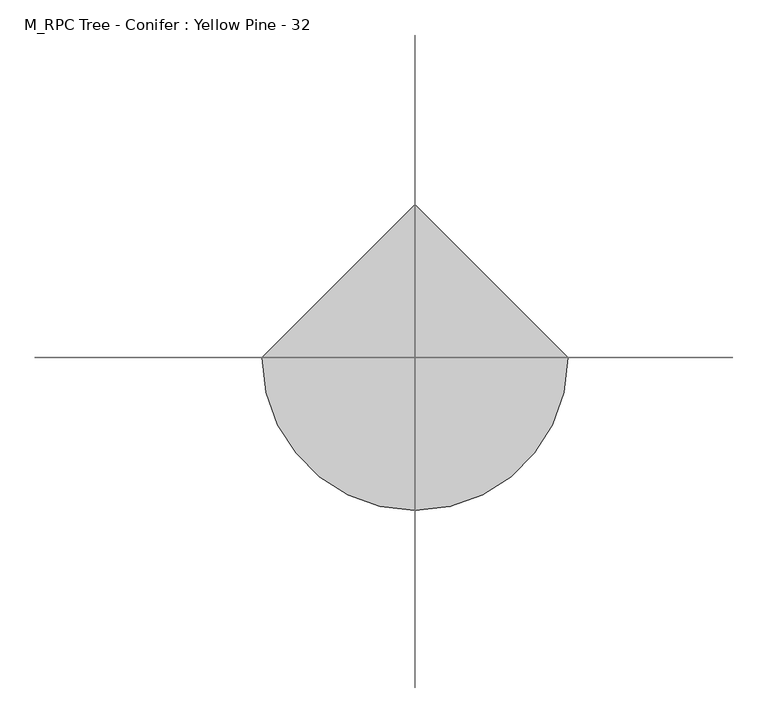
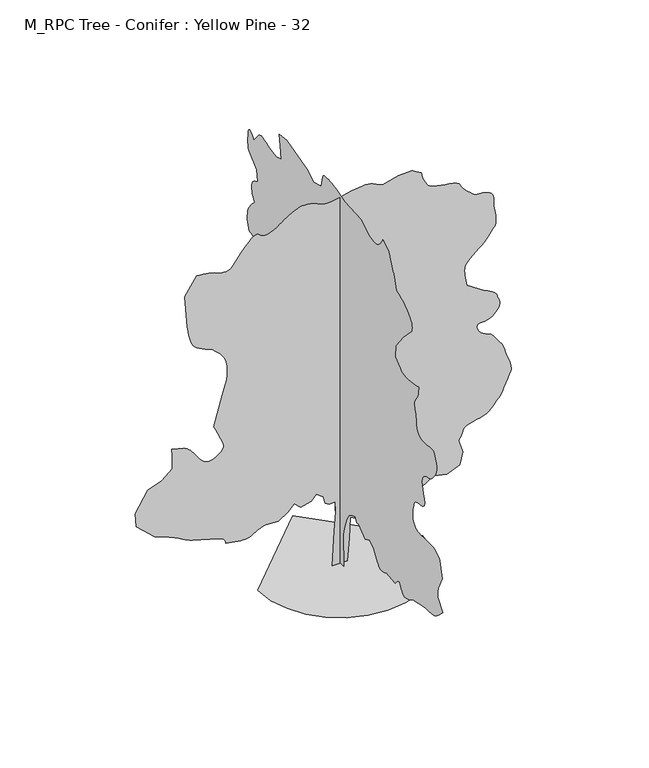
"""IFC4 building model written with IfcOpenShell, lengths in millimetres: geographic element geometry, M_RPC Tree - Conifer : Yellow Pine - 32."""

from ifc_helpers import new_model, si_unit, origin, place, context, project, spatial, triangles, source, transform, mapped, element, save


def m_rpc_tree_conifer_yellow_pine_32_9beb3d10(model_context):
    return source(origin(), model_context, "Body", "Tessellation", [
        triangles([(0.1907366, 576.1142532, 0.0301038), (0.1907366, -530.5701945, 0.0301038), (0.1907366, -434.3354436, 2742.6866592), (0.1907366, -626.8031651, 3560.6695793), (0.1907366, -915.502985, 4330.5368317), (0.1907366, -1252.3209435, 4859.8173157), (0.1907366, -1637.254715, 5100.4037933), (0.1907366, -2118.4195313, 5292.8664642), (0.1907366, -2310.8907772, 4859.8173157), (0.1907366, -2647.7087357, 4956.0486511), (0.1907366, -3032.6425072, 4571.1148796), (0.1907366, -3561.9229912, 4234.2967758), (0.1907366, -4187.4432404, 4522.9992119), (0.1907366, -4764.8393921, 4138.0654404), (0.1907366, -5149.7728729, 3464.4295235), (0.1907366, -5242.9195129, 3331.4425827), (0.1907366, -5338.1730011, 3204.7668846), (0.1907366, -5437.6308838, 3090.7223923), (0.1907366, -5543.4087296, 2995.6113373), (0.1907366, -5657.5953644, 2925.753392), (0.1907366, -5782.3069382, 2887.4510788), (0.1907366, -5919.640416, 2887.0333717), (0.1907366, -6051.3649338, 2910.4557793), (0.1907366, -6160.3693268, 2938.9357269), (0.1907366, -6250.422551, 2971.6200691), (0.1907366, -6325.338327, 3007.6733917), (0.1907366, -6388.8850296, 3046.2512695), (0.1907366, -6444.8583572, 3086.5179977), (0.1907366, -6497.0452881, 3127.6114197), (0.1907366, -7748.077066, 2983.2647072), (0.1907366, -7871.3840744, 3125.6557251), (0.1907366, -7992.1662369, 3256.2515327), (0.1907366, -8107.8998703, 3363.2915108), (0.1907366, -8216.0601288, 3434.9717285), (0.1907366, -8314.113446, 3459.5228462), (0.1907366, -8399.544278, 3425.158374), (0.1907366, -8469.8289413, 3320.0825203), (0.1907366, -8540.3891693, 3168.9981377), (0.1907366, -8627.7844162, 3012.8646446), (0.1907366, -8731.1717102, 2864.3045265), (0.1907366, -8849.7138931, 2735.9489891), (0.1907366, -8982.5848526, 2640.4199364), (0.1907366, -9128.8962708, 2590.3398537), (0.1907366, -9287.8295929, 2598.3309357), (0.1907366, -9447.2076553, 2645.1844711), (0.1907366, -9596.452034, 2702.1353554), (0.1907366, -9737.2521606, 2767.5133415), (0.1907366, -9871.3858337, 2839.6199867), (0.1907366, -10000.4523743, 2916.7757423), (0.1907366, -10126.141214, 2997.2911766), (0.1907366, -10250.1417847, 3079.495752), (0.1907366, -11982.3209381, 3416.3138557), (0.1907366, -12198.4100739, 3416.7405739), (0.1907366, -12411.4761383, 3419.6828362), (0.1907366, -12618.6762817, 3427.6826385), (0.1907366, -12816.9885956, 3443.2470955), (0.1907366, -13003.5655792, 3468.9272141), (0.1907366, -13175.477179, 3507.2205162), (0.1907366, -13329.6107941, 3560.6695793), (0.1907366, -13478.1435883, 3637.9584663), (0.1907366, -13634.3224274, 3743.0340294), (0.1907366, -13796.721817, 3871.2564354), (0.1907366, -13964.2778687, 4017.9855606), (0.1907366, -14135.5674133, 4178.6077332), (0.1907366, -14309.3451782, 4348.4924217), (0.1907366, -14484.4565826, 4522.9992119), (0.1907366, -13810.7663086, 5292.8664642), (0.1907366, -13790.7663666, 5437.0797546), (0.1907366, -13774.0557587, 5580.4489105), (0.1907366, -13764.0993896, 5722.129216), (0.1907366, -13764.1889191, 5861.293396), (0.1907366, -13777.7892517, 5997.0804565), (0.1907366, -13808.2780884, 6128.671843), (0.1907366, -13858.9447632, 6255.2048172), (0.1907366, -14388.1892029, 7361.8901733), (0.1907366, -14051.3888306, 8709.1538681), (0.1907366, -14024.9892792, 8746.3271805), (0.1907366, -13946.4115173, 8841.5806686), (0.1907366, -13816.5438629, 8970.4960556), (0.1907366, -13636.1002258, 9108.7184326), (0.1907366, -13406.0549652, 9231.7405746), (0.1907366, -13127.2103577, 9315.2075729), (0.1907366, -12800.3663544, 9334.674408), (0.1907366, -12436.1874207, 9319.563121), (0.1907366, -12061.0765961, 9313.6076706), (0.1907366, -11699.3870453, 9314.4965698), (0.1907366, -11375.6533173, 9319.563121), (0.1907366, -11114.1425354, 9326.2295746), (0.1907366, -10939.3869232, 9332.185025), (0.1907366, -10875.6536041, 9334.674408), (0.1907366, -10838.3198364, 9360.0961121), (0.1907366, -10742.1419861, 9431.7411575), (0.1907366, -10610.4976959, 9543.0297134), (0.1907366, -10467.1192383, 9687.0302261), (0.1907366, -10335.5633148, 9857.2518127), (0.1907366, -10239.3854645, 10046.763501), (0.1907366, -10202.0528595, 10248.8965118), (0.1907366, -10209.0745239, 10450.8527893), (0.1907366, -10228.7198364, 10645.3420807), (0.1907366, -10258.8528809, 10833.4306), (0.1907366, -10297.4307587, 11016.5426788), (0.1907366, -10342.3198792, 11195.8317352), (0.1907366, -10391.3866516, 11372.5418793), (0.1907366, -10442.5858521, 11548.0090759), (0.1907366, -10484.7193268, 11599.3873352), (0.1907366, -10531.8304047, 11649.431955), (0.1907366, -10589.074585, 11696.9871918), (0.1907366, -10661.4306335, 11740.8089355), (0.1907366, -10754.052887, 11779.4763428), (0.1907366, -10871.9201111, 11811.920874), (0.1907366, -11020.0087463, 11836.7205231), (0.1907366, -11199.1199066, 11851.9207581), (0.1907366, -11392.6313507, 11869.6092133), (0.1907366, -11579.2978638, 11909.9648895), (0.1907366, -11738.2311859, 11993.2539917), (0.1907366, -11848.3651611, 12139.7427246), (0.1907366, -11888.631308, 12369.5205597), (0.1907366, -11837.9646332, 12702.8548645), (0.1907366, -11734.3209595, 13079.6551208), (0.1907366, -11639.1209564, 13425.2549561), (0.1907366, -11566.5870117, 13738.1439972), (0.1907366, -11531.0310425, 14016.4560791), (0.1907366, -11546.9428619, 14258.588974), (0.1907366, -11628.4541656, 14462.8555756), (0.1907366, -11789.875708, 14627.4780853), (0.1907366, -11987.8322296, 14742.8559265), (0.1907366, -12171.4768341, 14813.5225433), (0.1907366, -12344.0988556, 14859.83367), (0.1907366, -12509.253891, 14901.8787781), (0.1907366, -12670.1429077, 14960.012439), (0.1907366, -12830.2319733, 15054.2345947), (0.1907366, -12992.8104218, 15204.9009796), (0.1907366, -13158.4991455, 15396.5450958), (0.1907366, -13316.5441498, 15600.8128601), (0.1907366, -13453.610202, 15818.5018982), (0.1907366, -13556.1888245, 16050.5016907), (0.1907366, -13610.7668884, 16297.7017181), (0.1907366, -13603.8335907, 16560.9019318), (0.1907366, -13522.0548615, 16840.9022827), (0.1907366, -13423.2992615, 17105.7023987), (0.1907366, -13356.5440338, 17321.7915344), (0.1907366, -13294.854776, 17487.3023621), (0.1907366, -13211.2110443, 17600.636142), (0.1907366, -13078.7656403, 17660.1034424), (0.1907366, -12870.5876495, 17664.0136688), (0.1907366, -12559.7438324, 17610.7692444), (0.1907366, -12190.9430878, 17551.836795), (0.1907366, -11836.4542603, 17540.0142609), (0.1907366, -11510.5869415, 17575.392334), (0.1907366, -11227.6530487, 17657.8803223), (0.1907366, -11001.8749695, 17787.4805511), (0.1907366, -10847.7425171, 17964.2813873), (0.1907366, -10779.3862244, 18188.103772), (0.1907366, -10756.0085815, 18427.2147583), (0.1907366, -10727.5638062, 18651.0371429), (0.1907366, -10694.8530121, 18862.3265717), (0.1907366, -10658.7645172, 19063.4817352), (0.1907366, -10620.1866394, 19257.081546), (0.1907366, -10579.9193298, 19445.615387), (0.1907366, -10538.8532318, 19631.659845), (0.1907366, -10498.8533478, 19765.7935181), (0.1907366, -10466.4971832, 19900.2829834), (0.1907366, -10449.1633575, 20035.6607666), (0.1907366, -10454.674649, 20172.2826599), (0.1907366, -10490.4085144, 20310.5951477), (0.1907366, -10564.0970398, 20451.037738), (0.1907366, -10683.208374, 20593.970874), (0.1907366, -10810.5866455, 20769.3508667), (0.1907366, -10906.7644958, 20989.2606995), (0.1907366, -10976.0974731, 21227.7507935), (0.1907366, -11022.6760254, 21458.6832092), (0.1907366, -11050.7638458, 21655.9293091), (0.1907366, -11064.4537079, 21793.3511536), (0.1907366, -11068.0976715, 21844.9945129), (0.1907366, -10997.1647919, 21829.1722229), (0.1907366, -10806.6752563, 21788.9072388), (0.1907366, -10530.3200317, 21735.2174927), (0.1907366, -10201.785434, 21678.9511597), (0.1907366, -9854.6740631, 21631.1284973), (0.1907366, -9522.7629272, 21602.5953552), (0.1907366, -9239.6517197, 21604.4626831), (0.1907366, -9000.6296814, 21646.0624695), (0.1907366, -8776.762532, 21725.6180786), (0.1907366, -8565.5004272, 21836.7275757), (0.1907366, -8364.3353806, 21973.0843689), (0.1907366, -8170.7442902, 22128.3725647), (0.1907366, -7982.2110306, 22296.2855713), (0.1907366, -7796.1927338, 22470.5074951), (0.1907366, -7844.3084015, 23480.9969788), (0.1907366, -8902.8513474, 24828.2868347), (0.1907366, -10105.7854797, 26079.3104736), (0.1907366, -10124.6308411, 26234.421936), (0.1907366, -10132.4524567, 26392.5541443), (0.1907366, -10118.4079651, 26556.5534363), (0.1907366, -10071.56315, 26729.3545166), (0.1907366, -9980.9861206, 26913.9781311), (0.1907366, -9835.6519684, 27113.2659668), (0.1907366, -9624.6299652, 27330.3341125), (0.1907366, -9377.1630936, 27538.9562622), (0.1907366, -9129.6962219, 27714.6897217), (0.1907366, -8882.2560928, 27863.1341492), (0.1907366, -8634.7979416, 27989.6217773), (0.1907366, -8387.3397903, 28099.7569153), (0.1907366, -8139.8822205, 28198.9555115), (0.1907366, -7892.4240692, 28292.6451416), (0.1907366, -7820.1842926, 28539.3998474), (0.1907366, -7747.5172165, 28781.978064), (0.1907366, -7674.0060059, 29016.1126099), (0.1907366, -7599.232663, 29237.622345), (0.1907366, -7522.7791901, 29442.2447388), (0.1907366, -7444.2281708, 29625.8893433), (0.1907366, -7363.1435852, 29784.2913025), (0.1907366, -7273.2234924, 29957.0016907), (0.1907366, -7174.0411743, 30170.0677551), (0.1907366, -7074.0234421, 30399.1351685), (0.1907366, -6981.5790848, 30619.7589111), (0.1907366, -6905.1256119, 30807.6683716), (0.1907366, -6853.0811142, 30938.2464478), (0.1907366, -6833.8543808, 30987.2248535), (0.1907366, -6015.8717514, 31468.3815308), (0.1907366, -5973.9336136, 31385.4470581), (0.1907366, -5927.7823608, 31300.0243652), (0.1907366, -5873.2048782, 31209.5368652), (0.1907366, -5806.0136307, 31111.491687), (0.1907366, -5721.9867828, 31003.3145691), (0.1907366, -5616.9112198, 30882.5126404), (0.1907366, -5486.5912674, 30746.6023315), (0.1907366, -5329.6130585, 30628.9141663), (0.1907366, -5149.9153061, 30559.2253967), (0.1907366, -4951.2751053, 30529.4458191), (0.1907366, -4737.4881546, 30531.6689392), (0.1907366, -4512.3324211, 30557.8905945), (0.1907366, -4279.6033127, 30600.1135986), (0.1907366, -4043.0878075, 30650.3361145), (0.1907366, -2984.5178284, 31372.1129883), (0.1907366, -674.9196321, 31516.4692932), (0.1907366, -376.5407518, 31598.5131226), (0.1907366, -81.9483319, 31678.0687317), (0.1907366, 205.0686057, 31752.5595337), (0.1907366, 480.7221471, 31819.4926575), (0.1907366, 741.2254686, 31876.2915161), (0.1907366, 982.791901, 31920.4702148), (0.1907366, 1201.6275988, 31949.5358826), (0.1907366, 1417.3877575, 31971.6694153), (0.1907366, 1643.236908, 31991.3147278), (0.1907366, 1865.7259438, 32000.025824), (0.1907366, 2071.3793793, 31989.3590332), (0.1907366, 2246.73074, 31950.9590515), (0.1907366, 2378.31297, 31876.2915161), (0.1907366, 2452.6686058, 31757.0918152), (0.1907366, 2693.2466537, 30794.6924194), (0.1907366, 3751.8163422, 30506.0681763), (0.1907366, 4714.1549858, 31083.4027039), (0.1907366, 5917.0713867, 31372.1129883), (0.1907366, 7504.9215591, 31853.2696655), (0.1907366, 8563.4912476, 31708.9133606), (0.1907366, 8467.2511917, 30794.6924194), (0.1907366, 8274.7891022, 29736.2012146), (0.1907366, 9044.6293213, 29495.5786926), (0.1907366, 9814.496283, 29639.9349976), (0.1907366, 10112.1862518, 29751.7560791), (0.1907366, 10401.8755463, 29853.8917053), (0.1907366, 10675.5646545, 29936.6471191), (0.1907366, 10925.2529022, 29990.3345398), (0.1907366, 11143.0314697, 30005.3568787), (0.1907366, 11320.7206238, 29971.9356628), (0.1907366, 11450.4975861, 29880.4691528), (0.1907366, 12172.2767853, 29014.4243408), (0.1907366, 12336.2760773, 29206.1568237), (0.1907366, 12494.3210815, 29373.0908203), (0.1907366, 12640.6319183, 29490.4231934), (0.1907366, 12769.2542999, 29533.1787231), (0.1907366, 12874.3211426, 29476.6449646), (0.1907366, 12949.9653625, 29295.9350647), (0.1907366, 12990.2326721, 28966.2458862), (0.1907366, 13002.4098358, 28600.1124207), (0.1907366, 12999.4774567, 28317.3552612), (0.1907366, 12983.9214294, 28103.9334045), (0.1907366, 12958.2322998, 27946.1546631), (0.1907366, 12924.9878174, 27829.9780334), (0.1907366, 12886.6773651, 27741.6229614), (0.1907366, 12845.8763672, 27667.1321594), (0.1907366, 11739.2090332, 26752.9112183), (0.1907366, 11642.9428162, 25742.5101013), (0.1907366, 11796.8090057, 25679.7534668), (0.1907366, 11946.1429138, 25612.0203918), (0.1907366, 12086.1425079, 25534.1530518), (0.1907366, 12212.1871399, 25441.1750061), (0.1907366, 12319.8317322, 25327.9307556), (0.1907366, 12404.2765778, 25189.4415344), (0.1907366, 12460.898703, 25020.7309021), (0.1907366, 12482.5880768, 24835.130603), (0.1907366, 12468.809848, 24649.530304), (0.1907366, 12425.6101593, 24463.9300049), (0.1907366, 12358.8537689, 24278.3297058), (0.1907366, 12274.4100861, 24092.7294067), (0.1907366, 12178.1427063, 23907.1291077), (0.1907366, 12076.0094055, 23721.531134), (0.1907366, 12230.0546539, 23566.8638306), (0.1907366, 12380.2768799, 23411.6640015), (0.1907366, 12522.9437531, 23255.6618958), (0.1907366, 12654.232251, 23098.4180054), (0.1907366, 12770.4100433, 22939.4858459), (0.1907366, 12867.6552704, 22778.4189331), (0.1907366, 12942.1437469, 22614.8614746), (0.1907366, 12995.5660675, 22455.4851563), (0.1907366, 13033.8765198, 22306.2407776), (0.1907366, 13059.5656494, 22165.4400696), (0.1907366, 13075.1216766, 22031.3063965), (0.1907366, 13083.1211884, 21902.239856), (0.1907366, 13086.0547302, 21776.5498535), (0.1907366, 13086.4988892, 21652.5504456), (0.1907366, 12797.787442, 20834.593396), (0.1907366, 12663.8328278, 20813.0830811), (0.1907366, 12530.2316803, 20786.5940002), (0.1907366, 12397.5211761, 20749.9729797), (0.1907366, 12266.0547821, 20698.2389282), (0.1907366, 12136.3650238, 20626.2386719), (0.1907366, 12008.6321228, 20528.9934448), (0.1907366, 11883.5653381, 20401.5268066), (0.1907366, 11769.6095032, 20250.15), (0.1907366, 11673.4316528, 20086.1483826), (0.1907366, 11591.9203491, 19911.6613586), (0.1907366, 11522.1420502, 19728.7260132), (0.1907366, 11461.2539062, 19539.4817505), (0.1907366, 11406.32005, 19346.0598358), (0.1907366, 11354.231369, 19150.5043304), (0.1907366, 11241.6091736, 18995.7486603), (0.1907366, 11133.6087891, 18840.6371979), (0.1907366, 11034.8531891, 18684.6374176), (0.1907366, 10949.9641846, 18527.3039978), (0.1907366, 10883.6531158, 18368.3706757), (0.1907366, 10840.3638977, 18207.3921295), (0.1907366, 10824.9869293, 18043.8369965), (0.1907366, 10873.0758545, 16744.6360657), (0.1907366, 10985.6980499, 16733.2576904), (0.1907366, 11093.7868011, 16715.5692352), (0.1907366, 11192.5424011, 16685.3466614), (0.1907366, 11277.3418762, 16636.1019928), (0.1907366, 11343.7424744, 16561.6135162), (0.1907366, 11386.9421631, 16455.4792969), (0.1907366, 11402.4086609, 16311.5683136), (0.1907366, 11398.1426422, 16145.2575348), (0.1907366, 11386.4096375, 15976.2794769), (0.1907366, 11368.2758606, 15805.3457245), (0.1907366, 11345.1644806, 15632.6341736), (0.1907366, 11318.2312408, 15458.6785126), (0.1907366, 11288.7202515, 15283.9229004), (0.1907366, 11258.0535187, 15108.6347626), (0.1907366, 11209.8750641, 14146.3225708), (0.1907366, 12124.0983307, 14194.4998627), (0.1907366, 13134.5878143, 14386.9450928), (0.1907366, 13349.6107361, 14314.1448853), (0.1907366, 13555.8330322, 14237.522818), (0.1907366, 13744.3668732, 14153.3442352), (0.1907366, 13906.4116333, 14057.7896027), (0.1907366, 14033.0783203, 13947.1219391), (0.1907366, 14115.5663086, 13817.5217102), (0.1907366, 14144.9889313, 13665.1670563), (0.1907366, 14136.6336273, 13472.1881378), (0.1907366, 14113.0780884, 13228.6332367), (0.1907366, 14076.8116974, 12943.0320648), (0.1907366, 14030.5889374, 12623.7434143), (0.1907366, 13976.7224579, 12279.2097931), (0.1907366, 13917.7888458, 11917.7876678), (0.1907366, 13856.3670135, 11548.0090759), (0.1907366, 13423.2992615, 10393.2528168), (0.1907366, 13186.7660248, 10260.5411499), (0.1907366, 12954.0546478, 10135.8301575), (0.1907366, 12728.8986237, 10027.1193512), (0.1907366, 12515.1209747, 9942.4082428), (0.1907366, 12316.4540314, 9889.6079773), (0.1907366, 12136.720816, 9876.8971252), (0.1907366, 11979.7431885, 9912.0973022), (0.1907366, 10632.5416992, 10489.4306671), (0.1907366, 9285.2518433, 10056.4524445), (0.1907366, 8322.9041885, 9382.7633331), (0.1907366, 7360.574556, 7939.2863251), (0.1907366, 7267.427916, 7795.7753174), (0.1907366, 7172.1744278, 7657.3215591), (0.1907366, 7072.7078247, 7528.9660217), (0.1907366, 6966.9386993, 7415.7572342), (0.1907366, 6852.7520645, 7322.752446), (0.1907366, 6728.0410721, 7254.9926285), (0.1907366, 6590.7075943, 7217.5344498), (0.1907366, 6453.6496811, 7205.0543976), (0.1907366, 6325.0092773, 7206.0322449), (0.1907366, 6195.5247391, 7216.2723175), (0.1907366, 6055.9512817, 7231.5615005), (0.1907366, 5897.0092392, 7247.6948181), (0.1907366, 5709.4532455, 7260.4591553), (0.1907366, 5484.0222382, 7265.6501175), (0.1907366, 5242.1730469, 7247.4192535), (0.1907366, 5010.4307968, 7196.3526031), (0.1907366, 4787.0970451, 7117.9347153), (0.1907366, 4570.501545, 7017.6321167), (0.1907366, 4358.9545738, 6900.9212173), (0.1907366, 4150.7765831, 6773.2673813), (0.1907366, 3944.2877335, 6640.1388794), (0.1907366, 3655.5850067, 5822.1556686), (0.1907366, 2837.6023773, 4907.9329834), (0.1907366, 2724.6688637, 4785.6038223), (0.1907366, 2594.073056, 4665.8082275), (0.1907366, 2448.7397758, 4548.1101791), (0.1907366, 2291.6195698, 4432.1012718), (0.1907366, 2125.6638565, 4317.3457764), (0.1907366, 1953.823764, 4203.4434265), (0.1907366, 1779.0325436, 4089.9500633), (0.1907366, 1490.3301075, 5100.4037933), (0.1907366, 1009.1652185, 5774.0312805), (0.1907366, 816.6984055, 5340.982132), (0.1907366, 672.3471874, 4667.3549355), (0.1907366, 624.2315924, 3464.4295235), (0.1907366, 527.9977498, 1780.3481609), (596.3909225, 0.001526, 0.0762003), (-654.6412188, 0.001526, 0.0762003), (-462.1761497, 0.0013542, 2887.0778458), (-365.9422709, 0.0012531, 4571.1593536), (-414.0587743, 0.0012017, 5437.2663712), (-895.2263157, 0.0012044, 5389.1507034), (-1232.0442741, 0.0011934, 5581.6133743), (-1376.391132, 0.0011557, 6207.1339142), (-1953.7960041, 0.0011328, 6592.067395), (-2338.7296303, 0.0011585, 6159.0182465), (-3204.8279274, 0.0011732, 5918.4311874), (-3734.1174225, 0.0011447, 6399.5960037), (-4263.3976158, 0.0011759, 5870.3155197), (-5033.2654495, 0.0012044, 5389.1507034), (-6188.0664734, 0.0012017, 5437.2663712), (-6765.4620438, 0.0012164, 5196.6798935), (-6889.4800552, 0.0012219, 5104.5105194), (-7015.168895, 0.0012274, 5016.1374252), (-7144.2267151, 0.001232, 4935.3371246), (-7278.342366, 0.0012356, 4865.8971771), (-7419.1872574, 0.0012393, 4811.6039795), (-7568.4409378, 0.0012412, 4776.2526489), (-7727.8009781, 0.0012421, 4763.6304543), (-7905.4011841, 0.0012421, 4769.2394142), (-8105.7209335, 0.0012412, 4784.9550247), (-8324.974411, 0.0012393, 4809.0794243), (-8559.3926605, 0.0012375, 4839.9417847), (-8805.16138, 0.0012356, 4875.8526741), (-9058.4773132, 0.0012329, 4915.1325439), (-9315.6331284, 0.001231, 4956.1015549), (-9327.5440292, 0.0012246, 5058.928418), (-9349.144455, 0.0012182, 5160.0664307), (-9390.1221863, 0.0012127, 5257.8441833), (-9460.166748, 0.0012072, 5350.573407), (-9568.8775543, 0.0012017, 5436.5640884), (-9725.9447113, 0.0011971, 5514.1378418), (-9941.1443665, 0.0011934, 5581.6133743), (-12058.3023468, 0.0011557, 6207.1339142), (-12231.1022644, 0.001153, 6261.978241), (-12415.7247162, 0.0011484, 6339.5607147), (-12606.213089, 0.0011429, 6433.1253525), (-12796.7026245, 0.0011364, 6535.9516342), (-12981.3250763, 0.00113, 6641.3033432), (-13154.2145233, 0.0011245, 6742.4500763), (-13309.324823, 0.001119, 6832.6457336), (-13476.1692902, 0.0011135, 6919.3386978), (-13683.3694336, 0.0011079, 7013.6143387), (-13924.1698517, 0.0011015, 7114.1925018), (-14191.9930389, 0.001096, 7219.8279144), (-14479.9929016, 0.0010896, 7329.2503052), (-14781.4152008, 0.0010822, 7441.1882401), (-15089.682431, 0.0010758, 7554.3970276), (-16581.2390625, 0.0009922, 8949.7851105), (-16677.5052795, 0.0009233, 10104.5413696), (-15667.0157959, 0.0008259, 11740.5426727), (-14512.2595367, 0.0008002, 12173.6092621), (-13646.1251953, 0.000757, 12895.3884613), (-13646.1251953, 0.0006918, 14002.0557953), (-13694.3036499, 0.0006569, 14579.4786896), (-12683.8141663, 0.0006716, 14338.8561676), (-12570.0362274, 0.0006762, 14265.5222717), (-12454.2130646, 0.0006808, 14184.9888153), (-12334.1250458, 0.0006863, 14090.1446045), (-12207.7246216, 0.0006927, 13973.8772827), (-12072.879364, 0.0007019, 13828.9000854), (-11927.5463745, 0.0007129, 13648.2773895), (-11769.5908997, 0.0007258, 13424.632901), (-11609.5018341, 0.0007396, 13189.6995667), (-11455.368219, 0.0007524, 12982.4994232), (-11301.2346039, 0.0007625, 12807.2996521), (-11141.1455383, 0.0007708, 12668.2767426), (-10969.323468, 0.0007772, 12569.6095093), (-10779.8117798, 0.00078, 12515.6546631), (-10566.6561859, 0.00078, 12510.4096344), (-10333.6785461, 0.0007772, 12563.7435883), (-10099.0114746, 0.0007708, 12671.7439728), (-9878.5667908, 0.0007616, 12818.4989685), (-9688.5225769, 0.0007515, 12987.9211853), (-9544.6999603, 0.0007414, 13164.0999664), (-9463.1886566, 0.0007313, 13331.0328003), (-9459.9888519, 0.000723, 13472.7218262), (-9516.6999252, 0.0007138, 13625.9659607), (-9601.1447708, 0.0007019, 13832.1894196), (-9708.700415, 0.0006863, 14082.5892517), (-9834.8334137, 0.0006697, 14368.2776276), (-9974.8341705, 0.0006514, 14680.5446136), (-10124.0785492, 0.0006311, 15010.5012177), (-10277.9447388, 0.0006109, 15349.3456512), (-9604.3445755, 0.0004649, 17803.2144745), (-9512.166481, 0.0004483, 18080.9917053), (-9423.8108276, 0.0004318, 18354.9482391), (-9343.0111084, 0.0004162, 18621.3482574), (-9273.5886017, 0.0004006, 18876.4594299), (-9219.2773819, 0.0003868, 19116.2820007), (-9183.8998901, 0.000373, 19337.2603729), (-9171.2774048, 0.000362, 19535.4819946), (-9174.5661575, 0.00035, 19728.905072), (-9185.3218964, 0.0003381, 19934.1483582), (-9205.4107864, 0.0003252, 20145.2610535), (-9236.4333115, 0.0003124, 20356.3714233), (-9279.9887924, 0.0003004, 20561.6170349), (-9337.9445572, 0.0002885, 20755.0377869), (-9411.8999268, 0.0002784, 20930.8619385), (-9507.0109818, 0.0002683, 21094.4170715), (-9624.8776245, 0.0002591, 21255.4839844), (-9761.5890472, 0.0002499, 21414.4161438), (-9913.500705, 0.0002398, 21571.6623596), (-10076.7895752, 0.0002306, 21727.6621399), (-10247.7233276, 0.0002214, 21882.7736023), (-10422.3010437, 0.0002122, 22037.5292725), (-10699.5457489, 0.0002058, 22151.1293152), (-10969.5897308, 0.0001984, 22266.0618347), (-11225.3241211, 0.000192, 22383.4848999), (-11459.545871, 0.0001847, 22504.6402954), (-11665.2344788, 0.0001773, 22630.9511902), (-11835.1020172, 0.000169, 22763.4849609), (-11962.034967, 0.0001608, 22903.6624512), (-12061.9463104, 0.0001497, 23090.5068604), (-12154.302301, 0.000135, 23343.8402344), (-12237.3239777, 0.0001176, 23635.9293823), (-12309.4137634, 9.92e-05, 23938.9527466), (-12368.8799011, 8.18e-05, 24225.0864441), (-12414.0352844, 6.8e-05, 24466.6856506), (-12443.280011, 5.79e-05, 24635.8427673), (-12635.7252411, -0.0001029, 27330.3341125), (-11673.3235199, -0.000192, 28821.977948), (-11416.2566528, -0.0001902, 28790.6891602), (-11162.9232788, -0.0001883, 28757.356311), (-10917.1452576, -0.0001856, 28719.7562805), (-10682.6560822, -0.0001828, 28675.8450073), (-10463.4566711, -0.0001801, 28623.4900635), (-10263.100296, -0.0001764, 28560.6450623), (-10085.5006714, -0.0001718, 28485.1775757), (-9904.9675049, -0.0001672, 28412.2006348), (-9701.6781693, -0.0001644, 28361.1781677), (-9488.3446793, -0.0001626, 28336.2006226), (-9277.4999908, -0.0001635, 28341.5328552), (-9081.7665894, -0.0001654, 28381.3560059), (-8913.8553268, -0.00017, 28459.9349304), (-8786.3613647, -0.0001773, 28581.355426), (-8016.4944031, -0.0002379, 29591.8449097), (-7810.8406769, -0.0002517, 29827.2235657), (-7608.5565125, -0.0002655, 30052.1121643), (-7413.0091461, -0.0002774, 30255.9346069), (-7227.5512802, -0.0002876, 30428.2031616), (-7055.5693359, -0.0002958, 30558.4254456), (-6900.4136902, -0.0003004, 30635.934668), (-6765.4620438, -0.0003013, 30650.4244812), (-6656.8843689, -0.0002986, 30614.2476196), (-6568.5106934, -0.0002949, 30555.3140076), (-6485.1867096, -0.0002912, 30486.2461304), (-6391.7552032, -0.0002876, 30419.7571655), (-6273.0798889, -0.0002839, 30368.4695984), (-6113.9948318, -0.000283, 30344.9128967), (-5899.3637466, -0.0002839, 30361.7141968), (-5642.9282364, -0.0002885, 30434.6911377), (-5379.7634857, -0.0002949, 30556.469751), (-5126.6876541, -0.0003041, 30705.0909119), (-4900.554364, -0.0003133, 30858.8698975), (-4718.1893326, -0.0003215, 30995.7592163), (-4596.4203117, -0.0003271, 31093.9811279), (-4552.0913315, -0.0003298, 31131.5811584), (-4497.8068542, -0.0003316, 31166.3371765), (-4353.4601418, -0.0003372, 31256.7363098), (-4146.8198479, -0.0003445, 31381.5356689), (-3905.6729393, -0.0003528, 31519.8481567), (-3657.7973717, -0.0003601, 31650.6029663), (-3430.9615082, -0.0003666, 31752.7362671), (-3252.9435951, -0.0003693, 31805.1819031), (-3084.0457649, -0.0003702, 31816.8253784), (-2873.9033592, -0.0003702, 31809.9816101), (-2634.3031586, -0.0003684, 31783.7576294), (-2377.0230778, -0.0003656, 31737.358136), (-2113.8583271, -0.000362, 31669.8924866), (-1856.5782463, -0.0003565, 31580.4700378), (-1616.9780457, -0.00035, 31468.3815308), (-1362.0889526, -0.0003445, 31376.9150208), (-1056.6930588, -0.0003427, 31343.5798462), (-709.2128151, -0.0003427, 31358.6021851), (-328.0666758, -0.0003463, 31412.2919312), (78.330157, -0.0003509, 31495.047345), (501.560628, -0.0003574, 31597.1806458), (933.2106977, -0.0003638, 31709.0040527), (1231.1665661, -0.0003666, 31749.359729), (1522.8112644, -0.0003684, 31784.7366394), (1801.8336227, -0.0003702, 31809.9816101), (2061.9138233, -0.0003702, 31820.1135498), (2296.7496346, -0.0003702, 31809.9816101), (2500.020948, -0.0003675, 31774.6023743), (2665.407946, -0.0003638, 31709.0040527), (2804.1456985, -0.0003592, 31632.1133972), (2932.7858116, -0.0003555, 31565.3593323), (3053.0081245, -0.0003519, 31506.9582458), (3166.4927673, -0.0003491, 31455.3148865), (3274.9373108, -0.0003463, 31408.8247009), (3380.0038628, -0.0003436, 31365.5366455), (3483.3905754, -0.0003408, 31324.0252258), (4734.4229347, -0.000361, 31660.8255981), (5841.1080002, -0.0003638, 31709.0040527), (6610.9842636, -0.0003381, 31275.9351379), (6622.0597504, -0.0003316, 31162.0699951), (6637.7750702, -0.0003243, 31045.1794556), (6662.743895, -0.000317, 30922.4241577), (6701.6060577, -0.0003096, 30790.869397), (6758.9752304, -0.0003004, 30647.4921021), (6839.4999664, -0.0002912, 30489.3575684), (6947.7933563, -0.0002811, 30313.6241089), (7056.6553162, -0.000271, 30152.7362549), (7146.9934067, -0.0002646, 30033.8900208), (7235.6513672, -0.0002591, 29946.2465332), (7339.464798, -0.0002545, 29878.6901917), (7475.2512772, -0.0002517, 29820.4681641), (7659.8650085, -0.000248, 29760.6462341), (7910.1317093, -0.0002435, 29688.1134521), (8218.6117172, -0.0002398, 29618.2456238), (8551.5012817, -0.0002361, 29565.1790955), (8886.0703949, -0.0002333, 29516.3797485), (9199.5814911, -0.0002297, 29459.1344055), (9469.3597916, -0.0002251, 29380.8229065), (9672.6485458, -0.0002186, 29268.9134583), (9786.6933289, -0.0002095, 29110.6905579), (9870.9602783, -0.0001984, 28926.5111023), (9995.6712708, -0.0001874, 28744.8221924), (10154.0709045, -0.0001764, 28565.2680359), (10339.4049408, -0.0001663, 28387.399823), (10544.9156525, -0.0001553, 28210.7780457), (10763.8499634, -0.0001452, 28035.0445862), (10989.6280426, -0.0001341, 27859.6669189), (11307.050528, -0.0001323, 27827.134021), (11611.4947357, -0.0001305, 27784.9110168), (11889.8056549, -0.0001268, 27723.3101257), (12129.0061707, -0.0001213, 27632.6435669), (12315.9401093, -0.000113, 27503.3119263), (12437.7175598, -0.0001029, 27325.6227722), (12481.1846741, -8.91e-05, 27089.7999573), (12484.0286865, -7.44e-05, 26844.1103027), (12491.8514648, -6.16e-05, 26638.9553833), (12503.9402618, -5.14e-05, 26467.3100464), (12519.4067596, -4.32e-05, 26322.6886414), (12537.3626404, -3.58e-05, 26198.3311157), (12557.0067902, -2.85e-05, 26087.3099854), (12577.4508911, -2.3e-05, 25983.1326233), (12617.7182007, -8.3e-06, 25736.4639587), (12652.1172638, 6.4e-06, 25494.9531189), (12674.6949554, 2.02e-05, 25263.4858521), (12679.5841919, 3.31e-05, 25047.1316162), (12660.9178894, 4.5e-05, 24851.0412598), (12612.8289642, 5.51e-05, 24680.1981995), (12529.3619659, 6.34e-05, 24539.5742249), (12422.8731171, 7.17e-05, 24404.8196594), (12307.9394348, 8.08e-05, 24250.5965149), (12182.1622284, 9.1e-05, 24081.2626648), (12042.873056, 0.0001011, 23900.9969238), (11887.5836975, 0.0001121, 23714.0641479), (11713.7164032, 0.000124, 23524.5524597), (11518.8724823, 0.000135, 23336.6406738), (11292.6502441, 0.000147, 23142.9524963), (11040.205188, 0.0001589, 22935.7511902), (10782.7825287, 0.0001718, 22719.3062622), (10541.3600555, 0.0001847, 22497.7965271), (10337.0050873, 0.0001984, 22275.4845154), (10190.6930878, 0.0002113, 22056.4630005), (10123.4937012, 0.0002242, 21845.0852051), (10112.737381, 0.0002361, 21636.016571), (10119.582312, 0.000249, 21421.973822), (10141.1821564, 0.0002618, 21203.6615662), (10174.6045349, 0.0002756, 20982.0611389), (10216.8263763, 0.0002885, 20757.8841248), (10264.9153015, 0.0003023, 20532.0165161), (10315.9377686, 0.000316, 20305.3489563), (11759.4950043, 0.000373, 19342.9483978), (11815.405545, 0.0003748, 19318.0603821), (11959.76185, 0.0003785, 19249.2599304), (12157.1835205, 0.0003849, 19146.0592529), (12372.2064423, 0.0003923, 19017.5264008), (12569.6292755, 0.0004015, 18873.0817291), (12713.9844177, 0.0004097, 18721.7932892), (12769.8961212, 0.0004189, 18573.0814362), (12799.9396362, 0.0004272, 18432.7260498), (12868.6517212, 0.0004355, 18292.281134), (12944.118045, 0.0004446, 18140.1032135), (12994.3405609, 0.0004557, 17964.2813873), (12987.3177338, 0.0004676, 17753.1698547), (12891.1398834, 0.0004832, 17494.9472443), (12673.7182709, 0.0005025, 17177.702655), (12373.8063446, 0.0005181, 16907.8354065), (12065.4507477, 0.0005264, 16768.3695007), (11769.7164734, 0.0005301, 16713.1693817), (11507.6720032, 0.000531, 16695.7471893), (11300.2939636, 0.0005328, 16669.8801636), (11168.7392029, 0.0005374, 16589.4350739), (11133.9831848, 0.0005485, 16407.8356934), (11184.0278046, 0.0005613, 16181.4355591), (11287.1389526, 0.0005723, 15992.9017181), (11434.4276367, 0.0005825, 15835.9240906), (11617.0943939, 0.0005898, 15704.190271), (11826.2502319, 0.0005962, 15591.3901794), (12053.0945251, 0.0006027, 15491.3009399), (12288.739444, 0.0006082, 15397.4345764), (12524.2948334, 0.0006256, 15099.4783447), (12750.162442, 0.0006431, 14807.8345184), (12956.651001, 0.0006596, 14528.8120148), (13134.0738922, 0.0006752, 14268.7220764), (13272.8293762, 0.0006899, 14033.8782715), (13363.1401428, 0.0007019, 13830.5883545), (13395.406778, 0.0007111, 13665.255423), (13434.6962402, 0.000723, 13467.3884308), (13532.9181519, 0.0007405, 13184.6324341), (13660.5626862, 0.0007598, 12849.6098602), (13788.2072205, 0.0007809, 12495.2989288), (13886.4302948, 0.0008011, 12154.4092712), (13925.7185944, 0.0008195, 11859.8319031), (13876.5634552, 0.0008323, 11644.2764557), (13762.5180908, 0.0008443, 11431.4754913), (13629.9854828, 0.0008617, 11143.8314209), (13483.9409088, 0.0008819, 10812.2749146), (13329.5410309, 0.0009022, 10468.186615), (13171.6739227, 0.0009214, 10142.5855591), (13015.584613, 0.000938, 9866.6744934), (12866.1623383, 0.0009499, 9671.563147), (12721.2735077, 0.0009591, 9516.9853729), (12573.0069763, 0.0009692, 9348.0073151), (12417.9838806, 0.0009793, 9174.0516541), (12252.8288452, 0.0009894, 9004.3625931), (12074.2502106, 0.0009986, 8848.0779465), (11878.8726013, 0.0010069, 8714.5314468), (11663.2276245, 0.0010124, 8612.966716), (11408.3838776, 0.001017, 8537.6335236), (11114.6948273, 0.0010216, 8469.8824265), (10808.4716583, 0.0010253, 8399.5977631), (10515.7604553, 0.0010299, 8316.6911957), (10262.515448, 0.0010363, 8211.0645035), (10074.9606171, 0.0010446, 8072.6020248), (9979.1373962, 0.0010556, 7891.2154221), (9927.8486664, 0.0010666, 7709.4108215), (9862.9596039, 0.0010749, 7568.0060806), (9794.78237, 0.0010813, 7454.3792953), (9733.3599564, 0.0010877, 7355.8992599), (9688.7376801, 0.0010932, 7259.9434891), (9671.0486435, 0.0010997, 7153.8900787), (9690.4265305, 0.001107, 7025.1165436), (9979.1373962, 0.0011622, 6110.9025787), (9738.6044037, 0.0012246, 5052.3328903), (8679.9992523, 0.0012503, 4619.2837418), (7621.4289825, 0.0012366, 4859.8617897), (6562.8592941, 0.0012761, 4186.2345932), (5792.9923325, 0.0012503, 4619.2837418), (4686.307267, 0.0012219, 5100.448558), (4613.7826241, 0.0012246, 5058.2174149), (4539.1514236, 0.0012274, 5010.1017471), (4460.3158287, 0.001231, 4950.2083099), (4375.1602707, 0.0012356, 4872.6261269), (4281.5956329, 0.0012412, 4771.4884048), (4177.5069283, 0.0012494, 4640.8835861), (4060.7957382, 0.0012595, 4474.9280182), (3938.4665771, 0.0012696, 4300.5546501), (3818.6709824, 0.0012788, 4146.3855721), (3700.9732246, 0.0012871, 4009.0520943), (3584.9553062, 0.0012944, 3885.1852364), (3470.2085312, 0.0013009, 3771.4163086), (3356.2971703, 0.0013073, 3664.385051), (3242.8128181, 0.0013137, 3560.7140533), (3387.1595306, 0.0013744, 2550.259742), (3304.2526726, 0.0013762, 2519.8153793), (3218.82155, 0.0013771, 2492.3219994), (3128.3416077, 0.001379, 2470.7218643), (3030.2792793, 0.0013799, 2457.9575272), (2922.1280319, 0.0013799, 2456.9796799), (2801.3455788, 0.001379, 2470.7218643), (2665.407946, 0.0013771, 2502.1443649), (2523.8610626, 0.0013735, 2554.6065697), (2387.3718647, 0.0013698, 2627.2733551), (2255.087352, 0.0013643, 2716.7754501), (2126.1628086, 0.0013578, 2819.7444557), (1999.7715408, 0.0013514, 2932.8111008), (1875.0604031, 0.0013441, 3052.6069862), (1751.1935452, 0.0013367, 3175.7802818), (836.9733307, 0.0013082, 3656.9450981), (740.7430126, 0.0014139, 1876.6236797), (-6707.6132492, 0.0, 0.0), (-6530.2798874, -1536.98787, 0.0), (-6025.2392029, -2948.4645058, 0.0), (-5232.927681, -4193.9855736, 0.0), (-4193.7887833, -5233.1241806, 0.0), (-2948.2677155, -6025.4357025, 0.0), (-1536.7912251, -6530.476387, 0.0), (0.1969643, -6707.8097488, 0.0), (1537.184515, -6530.476387, 0.0), (2948.6612961, -6025.4357025, 0.0), (4194.1823639, -5233.1241806, 0.0), (5233.3206802, -4193.9855736, 0.0), (6025.6322021, -2948.4645058, 0.0), (6530.6728867, -1536.98787, 0.0), (6708.0062485, 0.0005861, 0.0), (0.1957915, 6707.8097488, 0.0)], [[407, 408, 409], [173, 174, 175], [406, 407, 409], [219, 220, 221], [1, 2, 3], [414, 1, 3], [413, 414, 3], [413, 3, 4], [412, 413, 4], [412, 4, 5], [255, 256, 257], [219, 221, 222], [65, 66, 67], [405, 406, 409], [8, 9, 10], [219, 222, 223], [404, 405, 409], [64, 65, 67], [412, 5, 6], [411, 412, 6], [403, 404, 409], [219, 223, 224], [172, 173, 175], [172, 175, 176], [171, 172, 176], [171, 176, 177], [170, 171, 177], [254, 255, 257], [254, 257, 258], [402, 403, 409], [63, 64, 67], [218, 219, 224], [401, 402, 409], [218, 224, 225], [217, 218, 225], [312, 313, 314], [216, 217, 225], [216, 225, 226], [170, 177, 178], [169, 170, 178], [168, 169, 178], [167, 168, 178], [167, 178, 179], [166, 167, 179], [166, 179, 180], [165, 166, 180], [11, 12, 13], [216, 226, 227], [215, 216, 227], [400, 401, 409], [400, 409, 410], [399, 400, 410], [29, 30, 31], [62, 63, 67], [214, 215, 227], [214, 227, 228], [410, 411, 6], [410, 6, 7], [165, 180, 181], [164, 165, 181], [312, 314, 315], [61, 62, 67], [213, 214, 228], [60, 61, 67], [59, 60, 67], [58, 59, 67], [57, 58, 67], [56, 57, 67], [55, 56, 67], [54, 55, 67], [53, 54, 67], [52, 53, 67], [52, 67, 68], [52, 68, 69], [253, 254, 258], [252, 253, 258], [29, 31, 32], [271, 272, 273], [271, 273, 274], [270, 271, 274], [270, 274, 275], [269, 270, 275], [268, 269, 275], [268, 275, 276], [268, 276, 277], [268, 277, 278], [268, 278, 279], [268, 279, 280], [268, 280, 281], [268, 281, 282], [268, 282, 283], [267, 268, 283], [266, 267, 283], [265, 266, 283], [264, 265, 283], [263, 264, 283], [262, 263, 283], [261, 262, 283], [260, 261, 283], [259, 260, 283], [259, 283, 284], [52, 69, 70], [212, 213, 228], [212, 228, 229], [211, 212, 229], [210, 211, 229], [209, 210, 229], [208, 209, 229], [10, 11, 13], [163, 164, 181], [163, 181, 182], [312, 315, 316], [51, 52, 70], [51, 70, 71], [51, 71, 72], [207, 208, 229], [207, 229, 230], [206, 207, 230], [366, 367, 368], [74, 75, 76], [74, 76, 77], [74, 77, 78], [74, 78, 79], [74, 79, 80], [74, 80, 81], [74, 81, 82], [74, 82, 83], [74, 83, 84], [74, 84, 85], [74, 85, 86], [73, 74, 86], [73, 86, 87], [73, 87, 88], [72, 73, 88], [51, 72, 88], [51, 88, 89], [51, 89, 90], [51, 90, 91], [51, 91, 92], [51, 92, 93], [50, 51, 93], [49, 50, 93], [48, 49, 93], [47, 48, 93], [46, 47, 93], [45, 46, 93], [44, 45, 93], [43, 44, 93], [42, 43, 93], [41, 42, 93], [40, 41, 93], [39, 40, 93], [38, 39, 93], [37, 38, 93], [36, 37, 93], [35, 36, 93], [35, 93, 94], [34, 35, 94], [34, 94, 95], [34, 95, 96], [33, 34, 96], [205, 206, 230], [258, 259, 284], [252, 258, 284], [29, 32, 33], [29, 33, 96], [29, 96, 97], [311, 312, 316], [190, 191, 192], [190, 192, 193], [190, 193, 194], [190, 194, 195], [190, 195, 196], [190, 196, 197], [190, 197, 198], [190, 198, 199], [190, 199, 200], [190, 200, 201], [190, 201, 202], [190, 202, 203], [190, 203, 204], [190, 204, 205], [189, 190, 205], [189, 205, 230], [189, 230, 231], [189, 231, 232], [189, 232, 233], [189, 233, 234], [410, 7, 8], [310, 311, 316], [310, 316, 317], [309, 310, 317], [308, 309, 317], [307, 308, 317], [306, 307, 317], [305, 306, 317], [304, 305, 317], [303, 304, 317], [302, 303, 317], [302, 317, 318], [301, 302, 318], [300, 301, 318], [299, 300, 318], [299, 318, 319], [298, 299, 319], [298, 319, 320], [162, 163, 182], [366, 368, 369], [298, 320, 321], [366, 369, 370], [366, 370, 371], [366, 371, 372], [366, 372, 373], [366, 373, 374], [366, 374, 375], [365, 366, 375], [364, 365, 375], [363, 364, 375], [362, 363, 375], [361, 362, 375], [360, 361, 375], [359, 360, 375], [358, 359, 375], [357, 358, 375], [356, 357, 375], [355, 356, 375], [354, 355, 375], [353, 354, 375], [352, 353, 375], [351, 352, 375], [350, 351, 375], [350, 375, 376], [234, 235, 236], [189, 234, 236], [188, 189, 236], [188, 236, 237], [188, 237, 238], [188, 238, 239], [188, 239, 240], [188, 240, 241], [188, 241, 242], [188, 242, 243], [188, 243, 244], [188, 244, 245], [188, 245, 246], [188, 246, 247], [188, 247, 248], [188, 248, 249], [188, 249, 250], [188, 250, 251], [188, 251, 252], [188, 252, 284], [187, 188, 284], [187, 284, 285], [187, 285, 286], [187, 286, 287], [187, 287, 288], [187, 288, 289], [187, 289, 290], [187, 290, 291], [187, 291, 292], [187, 292, 293], [187, 293, 294], [187, 294, 295], [187, 295, 296], [187, 296, 297], [187, 297, 298], [187, 298, 321], [187, 321, 322], [187, 322, 323], [187, 323, 324], [187, 324, 325], [187, 325, 326], [187, 326, 327], [187, 327, 328], [187, 328, 329], [187, 329, 330], [187, 330, 331], [187, 331, 332], [187, 332, 333], [187, 333, 334], [187, 334, 335], [186, 187, 335], [185, 186, 335], [184, 185, 335], [183, 184, 335], [182, 183, 335], [162, 182, 335], [161, 162, 335], [160, 161, 335], [159, 160, 335], [158, 159, 335], [157, 158, 335], [156, 157, 335], [155, 156, 335], [154, 155, 335], [153, 154, 335], [152, 153, 335], [151, 152, 335], [150, 151, 335], [350, 376, 377], [142, 143, 144], [142, 144, 145], [141, 142, 145], [141, 145, 146], [140, 141, 146], [140, 146, 147], [139, 140, 147], [138, 139, 147], [137, 138, 147], [136, 137, 147], [135, 136, 147], [134, 135, 147], [133, 134, 147], [133, 147, 148], [132, 133, 148], [131, 132, 148], [130, 131, 148], [129, 130, 148], [128, 129, 148], [127, 128, 148], [127, 148, 149], [126, 127, 149], [125, 126, 149], [125, 149, 150], [125, 150, 335], [124, 125, 335], [123, 124, 335], [122, 123, 335], [121, 122, 335], [120, 121, 335], [119, 120, 335], [118, 119, 335], [117, 118, 335], [116, 117, 335], [115, 116, 335], [114, 115, 335], [113, 114, 335], [112, 113, 335], [111, 112, 335], [110, 111, 335], [109, 110, 335], [108, 109, 335], [107, 108, 335], [106, 107, 335], [105, 106, 335], [104, 105, 335], [103, 104, 335], [102, 103, 335], [101, 102, 335], [100, 101, 335], [99, 100, 335], [98, 99, 335], [97, 98, 335], [29, 97, 335], [28, 29, 335], [27, 28, 335], [26, 27, 335], [25, 26, 335], [25, 335, 336], [25, 336, 337], [25, 337, 338], [349, 350, 377], [339, 340, 341], [338, 339, 341], [338, 341, 342], [338, 342, 343], [338, 343, 344], [338, 344, 345], [338, 345, 346], [348, 349, 377], [347, 348, 377], [346, 347, 377], [338, 346, 377], [20, 21, 22], [19, 20, 22], [19, 22, 23], [18, 19, 23], [17, 18, 23], [17, 23, 24], [17, 24, 25], [16, 17, 25], [15, 16, 25], [14, 15, 25], [14, 25, 338], [13, 14, 338], [10, 13, 338], [8, 10, 338], [8, 338, 377], [410, 8, 377], [398, 399, 410], [398, 410, 377], [397, 398, 377], [396, 397, 377], [395, 396, 377], [394, 395, 377], [393, 394, 377], [393, 377, 378], [392, 393, 378], [391, 392, 378], [390, 391, 378], [389, 390, 378], [389, 378, 379], [389, 379, 380], [388, 389, 380], [388, 380, 381], [387, 388, 381], [387, 381, 382], [386, 387, 382], [386, 382, 383], [385, 386, 383], [384, 385, 383], [472, 473, 474], [415, 416, 417], [793, 415, 417], [792, 793, 417], [792, 417, 418], [776, 777, 778], [776, 778, 779], [776, 779, 780], [776, 780, 781], [776, 781, 782], [776, 782, 783], [776, 783, 784], [776, 784, 785], [776, 785, 786], [776, 786, 787], [776, 787, 788], [776, 788, 789], [443, 444, 445], [471, 472, 474], [471, 474, 475], [471, 475, 476], [471, 476, 477], [471, 477, 478], [471, 478, 479], [471, 479, 480], [471, 480, 481], [471, 481, 482], [776, 789, 790], [776, 790, 791], [539, 540, 541], [759, 760, 761], [471, 482, 483], [424, 425, 426], [423, 424, 426], [539, 541, 542], [613, 614, 615], [756, 757, 758], [756, 758, 759], [755, 756, 759], [539, 542, 543], [538, 539, 543], [538, 543, 544], [538, 544, 545], [538, 545, 546], [538, 546, 547], [538, 547, 548], [538, 548, 549], [538, 549, 550], [754, 755, 759], [471, 483, 484], [538, 550, 551], [537, 538, 551], [443, 445, 446], [792, 418, 419], [536, 537, 551], [535, 536, 551], [534, 535, 551], [533, 534, 551], [532, 533, 551], [531, 532, 551], [530, 531, 551], [529, 530, 551], [528, 529, 551], [527, 528, 551], [526, 527, 551], [525, 526, 551], [524, 525, 551], [524, 551, 552], [523, 524, 552], [522, 523, 552], [522, 552, 553], [521, 522, 553], [520, 521, 553], [519, 520, 553], [613, 615, 616], [420, 421, 422], [419, 420, 422], [612, 613, 616], [612, 616, 617], [612, 617, 618], [612, 618, 619], [776, 791, 792], [776, 792, 419], [775, 776, 419], [774, 775, 419], [773, 774, 419], [772, 773, 419], [771, 772, 419], [770, 771, 419], [769, 770, 419], [768, 769, 419], [767, 768, 419], [766, 767, 419], [765, 766, 419], [764, 765, 419], [466, 467, 468], [466, 468, 469], [466, 469, 470], [465, 466, 470], [464, 465, 470], [463, 464, 470], [462, 463, 470], [461, 462, 470], [461, 470, 471], [461, 471, 484], [461, 484, 485], [461, 485, 486], [460, 461, 486], [459, 460, 486], [459, 486, 487], [458, 459, 487], [457, 458, 487], [456, 457, 487], [455, 456, 487], [454, 455, 487], [453, 454, 487], [452, 453, 487], [451, 452, 487], [451, 487, 488], [451, 488, 489], [450, 451, 489], [450, 489, 490], [449, 450, 490], [449, 490, 491], [449, 491, 492], [448, 449, 492], [518, 519, 553], [518, 553, 554], [611, 612, 619], [611, 619, 620], [611, 620, 621], [448, 492, 493], [754, 759, 761], [754, 761, 762], [753, 754, 762], [752, 753, 762], [501, 502, 503], [611, 621, 622], [763, 764, 419], [447, 448, 493], [517, 518, 554], [500, 501, 503], [611, 622, 623], [762, 763, 419], [762, 419, 422], [752, 762, 422], [751, 752, 422], [750, 751, 422], [749, 750, 422], [748, 749, 422], [747, 748, 422], [747, 422, 423], [427, 428, 429], [517, 554, 555], [426, 427, 429], [517, 555, 556], [516, 517, 556], [516, 556, 557], [516, 557, 558], [516, 558, 559], [516, 559, 560], [516, 560, 561], [516, 561, 562], [516, 562, 563], [516, 563, 564], [516, 564, 565], [516, 565, 566], [516, 566, 567], [516, 567, 568], [516, 568, 569], [516, 569, 570], [516, 570, 571], [515, 516, 571], [515, 571, 572], [514, 515, 572], [514, 572, 573], [442, 443, 446], [442, 446, 447], [442, 447, 493], [441, 442, 493], [440, 441, 493], [439, 440, 493], [438, 439, 493], [437, 438, 493], [436, 437, 493], [435, 436, 493], [434, 435, 493], [433, 434, 493], [432, 433, 493], [431, 432, 493], [430, 431, 493], [429, 430, 493], [426, 429, 493], [426, 493, 494], [423, 426, 494], [423, 494, 495], [747, 423, 495], [747, 495, 496], [746, 747, 496], [746, 496, 497], [746, 497, 498], [746, 498, 499], [746, 499, 500], [746, 500, 503], [746, 503, 504], [746, 504, 505], [746, 505, 506], [746, 506, 507], [746, 507, 508], [746, 508, 509], [746, 509, 510], [746, 510, 511], [746, 511, 512], [745, 746, 512], [745, 512, 513], [745, 513, 514], [745, 514, 573], [745, 573, 574], [745, 574, 575], [745, 575, 576], [745, 576, 577], [745, 577, 578], [745, 578, 579], [745, 579, 580], [745, 580, 581], [745, 581, 582], [745, 582, 583], [745, 583, 584], [745, 584, 585], [745, 585, 586], [745, 586, 587], [745, 587, 588], [745, 588, 589], [745, 589, 590], [745, 590, 591], [745, 591, 592], [745, 592, 593], [745, 593, 594], [745, 594, 595], [745, 595, 596], [745, 596, 597], [745, 597, 598], [745, 598, 599], [745, 599, 600], [745, 600, 601], [745, 601, 602], [745, 602, 603], [745, 603, 604], [745, 604, 605], [745, 605, 606], [745, 606, 607], [745, 607, 608], [745, 608, 609], [745, 609, 610], [745, 610, 611], [745, 611, 623], [745, 623, 624], [745, 624, 625], [745, 625, 626], [745, 626, 627], [745, 627, 628], [745, 628, 629], [745, 629, 630], [745, 630, 631], [745, 631, 632], [745, 632, 633], [745, 633, 634], [745, 634, 635], [745, 635, 636], [712, 713, 714], [647, 648, 649], [646, 647, 649], [645, 646, 649], [645, 649, 650], [644, 645, 650], [644, 650, 651], [643, 644, 651], [643, 651, 652], [642, 643, 652], [642, 652, 653], [642, 653, 654], [642, 654, 655], [642, 655, 656], [642, 656, 657], [642, 657, 658], [642, 658, 659], [642, 659, 660], [642, 660, 661], [642, 661, 662], [642, 662, 663], [642, 663, 664], [642, 664, 665], [642, 665, 666], [642, 666, 667], [642, 667, 668], [642, 668, 669], [642, 669, 670], [642, 670, 671], [642, 671, 672], [641, 642, 672], [641, 672, 673], [640, 641, 673], [640, 673, 674], [639, 640, 674], [639, 674, 675], [638, 639, 675], [637, 638, 675], [637, 675, 676], [636, 637, 676], [690, 691, 692], [690, 692, 693], [689, 690, 693], [688, 689, 693], [725, 726, 727], [725, 727, 728], [724, 725, 728], [724, 728, 729], [723, 724, 729], [723, 729, 730], [722, 723, 730], [722, 730, 731], [721, 722, 731], [721, 731, 732], [721, 732, 733], [721, 733, 734], [721, 734, 735], [721, 735, 736], [721, 736, 737], [721, 737, 738], [721, 738, 739], [721, 739, 740], [721, 740, 741], [721, 741, 742], [721, 742, 743], [721, 743, 744], [721, 744, 745], [720, 721, 745], [719, 720, 745], [718, 719, 745], [717, 718, 745], [716, 717, 745], [715, 716, 745], [714, 715, 745], [712, 714, 745], [711, 712, 745], [710, 711, 745], [709, 710, 745], [708, 709, 745], [707, 708, 745], [687, 688, 693], [636, 676, 677], [687, 693, 694], [686, 687, 694], [685, 686, 694], [685, 694, 695], [685, 695, 696], [685, 696, 697], [685, 697, 698], [685, 698, 699], [685, 699, 700], [685, 700, 701], [685, 701, 702], [685, 702, 703], [685, 703, 704], [684, 685, 704], [684, 704, 705], [684, 705, 706], [706, 707, 745], [684, 706, 745], [683, 684, 745], [682, 683, 745], [681, 682, 745], [680, 681, 745], [636, 677, 678], [745, 636, 678], [745, 678, 679], [680, 745, 679], [808, 809, 794], [807, 808, 794], [807, 794, 795], [806, 807, 795], [806, 795, 796], [806, 796, 797], [805, 806, 797], [804, 805, 797], [804, 797, 798], [804, 798, 799], [804, 799, 800], [804, 800, 801], [804, 801, 802], [804, 802, 803]], closed=False),
    ])


if __name__ == "__main__":
    model = new_model("IFC4")
    model_context = context("Model", 3, world=origin())
    ifc_project = project(units=[si_unit("LENGTHUNIT", "METRE", prefix="MILLI")], contexts=[model_context])
    site = spatial("IfcSite", under=ifc_project)
    building = spatial("IfcBuilding", under=site)
    placement = place(None, origin())
    m_rpc_tree_conifer_yellow_pine_32_shape = m_rpc_tree_conifer_yellow_pine_32_9beb3d10(model_context)
    element("IfcGeographicElement", 1, ObjectType="M_RPC Tree - Conifer : Yellow Pine - 32", at=placement, inside=building, context=model_context, shape_type="MappedRepresentation", body=[
        mapped(m_rpc_tree_conifer_yellow_pine_32_shape, transform((0.0, 0.0, 0.0), x_axis=(1.0, 0.0, 0.0), y_axis=(0.0, 1.0, 0.0), z_axis=(0.0, 0.0, 1.0))),
    ])
    save(model, "model.ifc")
